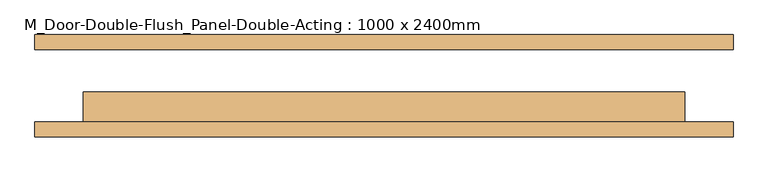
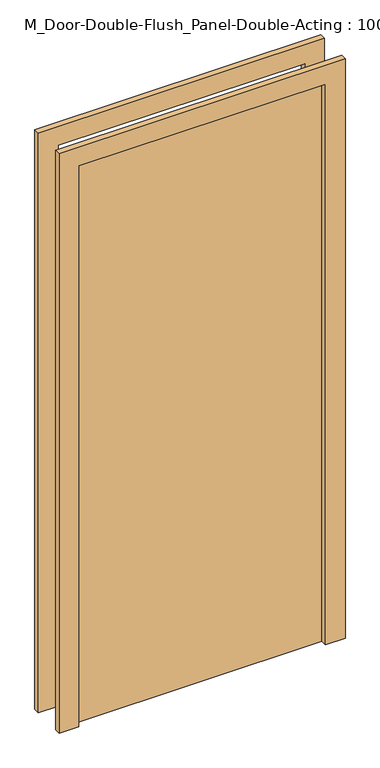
"""IFC4 building model written with IfcOpenShell, lengths in millimetres: door geometry, M_Door-Double-Flush_Panel-Double-Acting : 1000 x 2400mm."""

from ifc_helpers import new_model, si_unit, frame, origin, origin_with_axes, place, context, project, spatial, polyline, outline, extrude, source, transform, mapped, element, save


def m_door_double_flush_panel_double_acting_1000_x_2400mm_1c2e4d77(model_context):
    return source(origin(), model_context, "Body", "SweptSolid", [
        extrude(outline(polyline([(2480.0, -580.0), (0.0, -580.0), (0.0, -500.0), (2400.0, -500.0), (2400.0, 500.0), (0.0, 500.0), (0.0, 580.0), (2480.0, 580.0), (2480.0, -580.0)])), frame((0.0, -85.0, 0.0), z_axis=(0.0, 1.0, 0.0), x_axis=(0.0, 0.0, 1.0)), (0.0, 0.0, 1.0), 25.0),
        extrude(outline(polyline([(2400.0, -500.0), (2400.0, 500.0), (0.0, 500.0), (0.0, 580.0), (2480.0, 580.0), (2480.0, -580.0), (0.0, -580.0), (0.0, -500.0), (2400.0, -500.0)])), frame((0.0, 60.0, 0.0), z_axis=(0.0, 1.0, 0.0), x_axis=(0.0, 0.0, 1.0)), (0.0, 0.0, 1.0), 25.0),
        extrude(outline(polyline([(-500.0, -60.0), (-500.0, -10.0), (500.0, -10.0), (500.0, -60.0), (-500.0, -60.0)])), origin_with_axes(), (0.0, 0.0, 1.0), 2400.0),
    ])


if __name__ == "__main__":
    model = new_model("IFC4")
    model_context = context("Model", 3, world=origin())
    ifc_project = project(units=[si_unit("LENGTHUNIT", "METRE", prefix="MILLI")], contexts=[model_context])
    site = spatial("IfcSite", under=ifc_project)
    building = spatial("IfcBuilding", under=site)
    placement = place(None, origin())
    m_door_double_flush_panel_double_acting_1000_x_2400mm_shape = m_door_double_flush_panel_double_acting_1000_x_2400mm_1c2e4d77(model_context)
    element("IfcDoor", 1, ObjectType="M_Door-Double-Flush_Panel-Double-Acting : 1000 x 2400mm", at=placement, inside=building, context=model_context, shape_type="MappedRepresentation", body=[
        mapped(m_door_double_flush_panel_double_acting_1000_x_2400mm_shape, transform((0.0, 0.0, 0.0), x_axis=(1.0, 0.0, 0.0), y_axis=(0.0, 1.0, 0.0), z_axis=(0.0, 0.0, 1.0))),
    ])
    save(model, "model.ifc")
